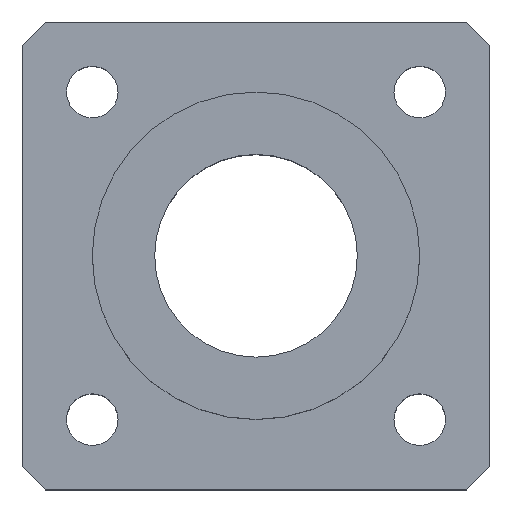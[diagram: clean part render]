
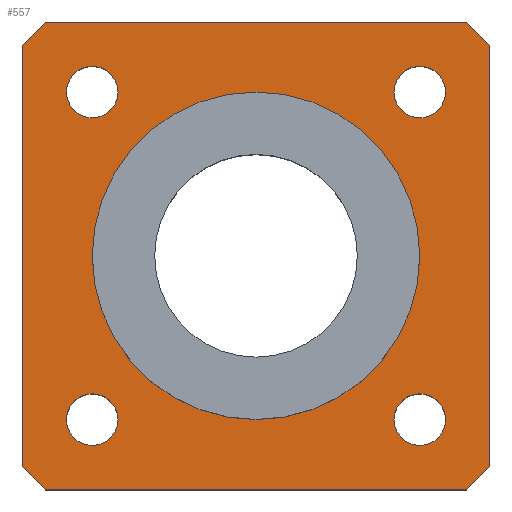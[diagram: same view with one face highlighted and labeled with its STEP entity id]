
A CAD part, top view. The second image highlights one B-rep face of the part: STEP entity #557.
In plain terms, the highlighted planar face has unit normal (0, 0, 1).
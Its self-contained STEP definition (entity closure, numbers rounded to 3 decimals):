
#84=CARTESIAN_POINT('',(21.0,0.,16.0));
#85=VERTEX_POINT('',#84);
#86=CARTESIAN_POINT('',(0.0,0.0,16.0));
#87=DIRECTION('',(0.0,0.0,-1.0));
#88=DIRECTION('',(-1.0,0.0,0.0));
#89=AXIS2_PLACEMENT_3D('',#86,#87,#88);
#90=CIRCLE('',#89,21.0);
#91=EDGE_CURVE('',#85,#85,#90,.T.);
#141=CARTESIAN_POINT('',(24.3,-21.0,16.0));
#142=VERTEX_POINT('',#141);
#143=CARTESIAN_POINT('',(21.0,-21.0,16.0));
#144=DIRECTION('',(0.0,0.0,-1.0));
#145=DIRECTION('',(-1.0,0.0,0.0));
#146=AXIS2_PLACEMENT_3D('',#143,#144,#145);
#147=CIRCLE('',#146,3.3);
#148=EDGE_CURVE('',#142,#142,#147,.T.);
#169=CARTESIAN_POINT('',(-17.7,-21.0,16.0));
#170=VERTEX_POINT('',#169);
#171=CARTESIAN_POINT('',(-21.0,-21.0,16.0));
#172=DIRECTION('',(0.0,0.0,-1.0));
#173=DIRECTION('',(-1.0,0.0,0.0));
#174=AXIS2_PLACEMENT_3D('',#171,#172,#173);
#175=CIRCLE('',#174,3.3);
#176=EDGE_CURVE('',#170,#170,#175,.T.);
#197=CARTESIAN_POINT('',(24.3,21.0,16.0));
#198=VERTEX_POINT('',#197);
#199=CARTESIAN_POINT('',(21.0,21.0,16.0));
#200=DIRECTION('',(0.0,0.0,-1.0));
#201=DIRECTION('',(-1.0,0.0,0.0));
#202=AXIS2_PLACEMENT_3D('',#199,#200,#201);
#203=CIRCLE('',#202,3.3);
#204=EDGE_CURVE('',#198,#198,#203,.T.);
#225=CARTESIAN_POINT('',(-17.7,21.0,16.0));
#226=VERTEX_POINT('',#225);
#227=CARTESIAN_POINT('',(-21.0,21.0,16.0));
#228=DIRECTION('',(0.0,0.0,-1.0));
#229=DIRECTION('',(-1.0,0.0,0.0));
#230=AXIS2_PLACEMENT_3D('',#227,#228,#229);
#231=CIRCLE('',#230,3.3);
#232=EDGE_CURVE('',#226,#226,#231,.T.);
#253=CARTESIAN_POINT('',(-27.0,30.0,16.0));
#254=VERTEX_POINT('',#253);
#255=CARTESIAN_POINT('',(27.0,30.0,16.0));
#256=VERTEX_POINT('',#255);
#257=CARTESIAN_POINT('',(-27.0,30.0,16.0));
#258=DIRECTION('',(1.0,0.0,0.0));
#259=VECTOR('',#258,54.0);
#260=LINE('',#257,#259);
#261=EDGE_CURVE('',#254,#256,#260,.T.);
#293=CARTESIAN_POINT('',(30.,27.0,16.0));
#294=VERTEX_POINT('',#293);
#295=CARTESIAN_POINT('',(27.0,30.0,16.0));
#296=DIRECTION('',(0.707,-0.707,0.0));
#297=VECTOR('',#296,4.243);
#298=LINE('',#295,#297);
#299=EDGE_CURVE('',#256,#294,#298,.T.);
#324=CARTESIAN_POINT('',(30.,-27.0,16.0));
#325=VERTEX_POINT('',#324);
#326=CARTESIAN_POINT('',(30.,27.0,16.0));
#327=DIRECTION('',(0.0,-1.0,0.0));
#328=VECTOR('',#327,54.0);
#329=LINE('',#326,#328);
#330=EDGE_CURVE('',#294,#325,#329,.T.);
#355=CARTESIAN_POINT('',(27.0,-30.0,16.0));
#356=VERTEX_POINT('',#355);
#357=CARTESIAN_POINT('',(30.,-27.0,16.0));
#358=DIRECTION('',(-0.707,-0.707,0.0));
#359=VECTOR('',#358,4.243);
#360=LINE('',#357,#359);
#361=EDGE_CURVE('',#325,#356,#360,.T.);
#386=CARTESIAN_POINT('',(-27.0,-30.0,16.0));
#387=VERTEX_POINT('',#386);
#388=CARTESIAN_POINT('',(27.0,-30.0,16.0));
#389=DIRECTION('',(-1.0,0.0,0.0));
#390=VECTOR('',#389,54.0);
#391=LINE('',#388,#390);
#392=EDGE_CURVE('',#356,#387,#391,.T.);
#417=CARTESIAN_POINT('',(-30.,-27.0,16.0));
#418=VERTEX_POINT('',#417);
#419=CARTESIAN_POINT('',(-27.0,-30.0,16.0));
#420=DIRECTION('',(-0.707,0.707,0.0));
#421=VECTOR('',#420,4.243);
#422=LINE('',#419,#421);
#423=EDGE_CURVE('',#387,#418,#422,.T.);
#448=CARTESIAN_POINT('',(-30.,27.0,16.0));
#449=VERTEX_POINT('',#448);
#450=CARTESIAN_POINT('',(-30.,-27.0,16.0));
#451=DIRECTION('',(0.0,1.0,0.0));
#452=VECTOR('',#451,54.0);
#453=LINE('',#450,#452);
#454=EDGE_CURVE('',#418,#449,#453,.T.);
#479=CARTESIAN_POINT('',(-30.,27.0,16.0));
#480=DIRECTION('',(0.707,0.707,0.0));
#481=VECTOR('',#480,4.243);
#482=LINE('',#479,#481);
#483=EDGE_CURVE('',#449,#254,#482,.T.);
#527=CARTESIAN_POINT('',(0.,0.0,16.0));
#528=DIRECTION('',(0.0,0.0,1.0));
#529=DIRECTION('',(1.0,0.0,0.0));
#530=AXIS2_PLACEMENT_3D('',#527,#528,#529);
#531=PLANE('',#530);
#532=ORIENTED_EDGE('',*,*,#261,.F.);
#533=ORIENTED_EDGE('',*,*,#483,.F.);
#534=ORIENTED_EDGE('',*,*,#454,.F.);
#535=ORIENTED_EDGE('',*,*,#423,.F.);
#536=ORIENTED_EDGE('',*,*,#392,.F.);
#537=ORIENTED_EDGE('',*,*,#361,.F.);
#538=ORIENTED_EDGE('',*,*,#330,.F.);
#539=ORIENTED_EDGE('',*,*,#299,.F.);
#540=EDGE_LOOP('',(#532,#533,#534,#535,#536,#537,#538,#539));
#541=FACE_OUTER_BOUND('',#540,.T.);
#542=ORIENTED_EDGE('',*,*,#91,.T.);
#543=EDGE_LOOP('',(#542));
#544=FACE_BOUND('',#543,.T.);
#545=ORIENTED_EDGE('',*,*,#148,.T.);
#546=EDGE_LOOP('',(#545));
#547=FACE_BOUND('',#546,.T.);
#548=ORIENTED_EDGE('',*,*,#176,.T.);
#549=EDGE_LOOP('',(#548));
#550=FACE_BOUND('',#549,.T.);
#551=ORIENTED_EDGE('',*,*,#204,.T.);
#552=EDGE_LOOP('',(#551));
#553=FACE_BOUND('',#552,.T.);
#554=ORIENTED_EDGE('',*,*,#232,.T.);
#555=EDGE_LOOP('',(#554));
#556=FACE_BOUND('',#555,.T.);
#557=ADVANCED_FACE('',(#541,#544,#547,#550,#553,#556),#531,.T.);
